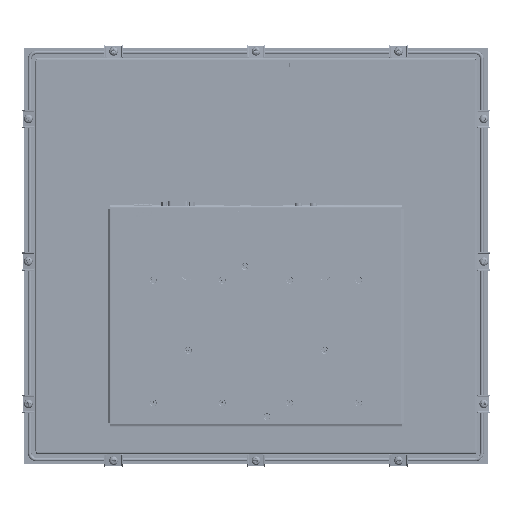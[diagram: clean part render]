
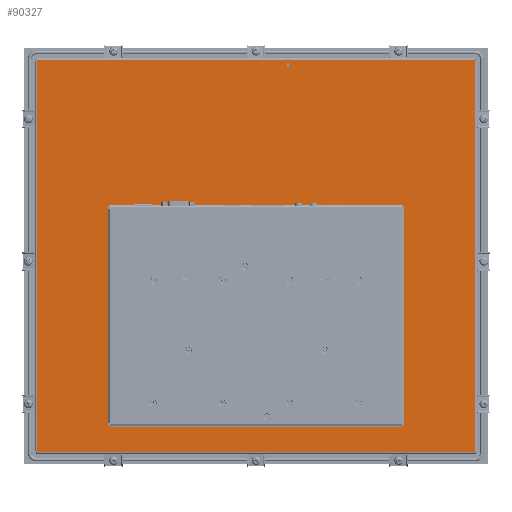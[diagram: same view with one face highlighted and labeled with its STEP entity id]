
A CAD part, front view. The second image highlights one B-rep face of the part: STEP entity #90327.
In plain terms, the highlighted planar face has unit normal (0, -1, 0).
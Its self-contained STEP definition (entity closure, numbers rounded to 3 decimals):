
#224 = VERTEX_POINT ( 'NONE', #129439 ) ;
#718 = LINE ( 'NONE', #173799, #75658 ) ;
#2463 = ORIENTED_EDGE ( 'NONE', *, *, #101284, .T. ) ;
#4821 = DIRECTION ( 'NONE',  ( 0.707, 0., 0.707 ) ) ;
#4944 = ORIENTED_EDGE ( 'NONE', *, *, #129377, .T. ) ;
#8308 = CARTESIAN_POINT ( 'NONE',  ( 133.25, -15.75, 51.802 ) ) ;
#11032 = CARTESIAN_POINT ( 'NONE',  ( 199.95, -15.75, -173.898 ) ) ;
#14295 = LINE ( 'NONE', #209159, #32434 ) ;
#14508 = CARTESIAN_POINT ( 'NONE',  ( -199.95, -15.75, 4.952 ) ) ;
#18486 = EDGE_CURVE ( 'NONE', #111456, #90916, #14295, .T. ) ;
#18681 = ORIENTED_EDGE ( 'NONE', *, *, #148154, .T. ) ;
#25374 = ORIENTED_EDGE ( 'NONE', *, *, #137321, .T. ) ;
#26684 = CARTESIAN_POINT ( 'NONE',  ( -90.05, -15.75, 95.002 ) ) ;
#27466 = LINE ( 'NONE', #204285, #82384 ) ;
#29803 = LINE ( 'NONE', #127943, #79583 ) ;
#30026 = DIRECTION ( 'NONE',  ( 0., 0., 1. ) ) ;
#30102 = DIRECTION ( 'NONE',  ( 1., 0., 0. ) ) ;
#32434 = VECTOR ( 'NONE', #111090, 1000. ) ;
#34919 = DIRECTION ( 'NONE',  ( -1., 0., 0. ) ) ;
#35944 = LINE ( 'NONE', #54068, #60280 ) ;
#36057 = CARTESIAN_POINT ( 'NONE',  ( 199.95, -15.75, 183.802 ) ) ;
#36236 = VERTEX_POINT ( 'NONE', #187675 ) ;
#36349 = DIRECTION ( 'NONE',  ( 0., 0., -1. ) ) ;
#36506 = ORIENTED_EDGE ( 'NONE', *, *, #86494, .T. ) ;
#38928 = LINE ( 'NONE', #14508, #100298 ) ;
#43184 = CARTESIAN_POINT ( 'NONE',  ( 0., -15.75, -173.898 ) ) ;
#43814 = VERTEX_POINT ( 'NONE', #101053 ) ;
#47361 = ORIENTED_EDGE ( 'NONE', *, *, #197211, .T. ) ;
#50394 = VERTEX_POINT ( 'NONE', #135884 ) ;
#54068 = CARTESIAN_POINT ( 'NONE',  ( 199.95, -15.75, 4.952 ) ) ;
#54145 = VERTEX_POINT ( 'NONE', #156999 ) ;
#57334 = ORIENTED_EDGE ( 'NONE', *, *, #103532, .T. ) ;
#60280 = VECTOR ( 'NONE', #210243, 1000. ) ;
#60699 = LINE ( 'NONE', #139434, #243260 ) ;
#69072 = CARTESIAN_POINT ( 'NONE',  ( -135.25, -15.75, -148.698 ) ) ;
#69308 = LINE ( 'NONE', #26684, #102099 ) ;
#71383 = VERTEX_POINT ( 'NONE', #36057 ) ;
#71954 = EDGE_CURVE ( 'NONE', #71383, #207713, #231622, .T. ) ;
#75658 = VECTOR ( 'NONE', #194400, 1000. ) ;
#76180 = VERTEX_POINT ( 'NONE', #136873 ) ;
#79376 = ORIENTED_EDGE ( 'NONE', *, *, #165575, .T. ) ;
#79583 = VECTOR ( 'NONE', #225986, 1000. ) ;
#82384 = VECTOR ( 'NONE', #30026, 1000. ) ;
#86494 = EDGE_CURVE ( 'NONE', #224, #76180, #38928, .T. ) ;
#90327 = ADVANCED_FACE ( 'NONE', ( #160462, #239019 ), #141061, .F. ) ;
#90916 = VERTEX_POINT ( 'NONE', #169981 ) ;
#96977 = VECTOR ( 'NONE', #236189, 1000. ) ;
#100298 = VECTOR ( 'NONE', #36349, 1000. ) ;
#100526 = LINE ( 'NONE', #123704, #214076 ) ;
#101053 = CARTESIAN_POINT ( 'NONE',  ( 135.25, -15.75, 49.802 ) ) ;
#101284 = EDGE_CURVE ( 'NONE', #133153, #54145, #222175, .T. ) ;
#102099 = VECTOR ( 'NONE', #4821, 1000. ) ;
#103532 = EDGE_CURVE ( 'NONE', #76180, #229104, #219946, .T. ) ;
#105083 = DIRECTION ( 'NONE',  ( 1., 0., 0. ) ) ;
#110990 = CARTESIAN_POINT ( 'NONE',  ( 199.95, -15.75, -172.927 ) ) ;
#111090 = DIRECTION ( 'NONE',  ( 0., 0., 1. ) ) ;
#111456 = VERTEX_POINT ( 'NONE', #69072 ) ;
#115525 = CARTESIAN_POINT ( 'NONE',  ( 0., -15.75, 183.802 ) ) ;
#118436 = VECTOR ( 'NONE', #165456, 1000. ) ;
#120000 = DIRECTION ( 'NONE',  ( 0., 0., -1. ) ) ;
#122327 = VERTEX_POINT ( 'NONE', #8308 ) ;
#123704 = CARTESIAN_POINT ( 'NONE',  ( 144.45, -15.75, -139.498 ) ) ;
#124982 = DIRECTION ( 'NONE',  ( -0.707, 0., -0.707 ) ) ;
#127943 = CARTESIAN_POINT ( 'NONE',  ( -144.45, -15.75, -139.498 ) ) ;
#129377 = EDGE_CURVE ( 'NONE', #162784, #111456, #29803, .T. ) ;
#129439 = CARTESIAN_POINT ( 'NONE',  ( -199.95, -15.75, -172.927 ) ) ;
#131078 = DIRECTION ( 'NONE',  ( -1., 0., 0. ) ) ;
#133153 = VERTEX_POINT ( 'NONE', #110990 ) ;
#135448 = VERTEX_POINT ( 'NONE', #252716 ) ;
#135884 = CARTESIAN_POINT ( 'NONE',  ( 133.25, -15.75, -150.698 ) ) ;
#136353 = AXIS2_PLACEMENT_3D ( 'NONE', #186015, #209196, #34919 ) ;
#136873 = CARTESIAN_POINT ( 'NONE',  ( -199.95, -15.75, -173.898 ) ) ;
#137321 = EDGE_CURVE ( 'NONE', #50394, #162784, #176561, .T. ) ;
#139434 = CARTESIAN_POINT ( 'NONE',  ( -199.95, -15.75, 4.952 ) ) ;
#141061 = PLANE ( 'NONE',  #136353 ) ;
#143615 = ORIENTED_EDGE ( 'NONE', *, *, #18486, .T. ) ;
#145617 = DIRECTION ( 'NONE',  ( 0.707, 0., -0.707 ) ) ;
#147542 = EDGE_LOOP ( 'NONE', ( #57334, #253094, #2463, #181327, #169928, #79376, #192721, #36506 ) ) ;
#148154 = EDGE_CURVE ( 'NONE', #135448, #122327, #172076, .T. ) ;
#148206 = VECTOR ( 'NONE', #145617, 1000. ) ;
#150999 = CARTESIAN_POINT ( 'NONE',  ( -199.95, -15.75, 183.802 ) ) ;
#152363 = ORIENTED_EDGE ( 'NONE', *, *, #212569, .T. ) ;
#153804 = LINE ( 'NONE', #156358, #96977 ) ;
#156358 = CARTESIAN_POINT ( 'NONE',  ( -199.95, -15.75, 4.952 ) ) ;
#156999 = CARTESIAN_POINT ( 'NONE',  ( 199.95, -15.75, 182.831 ) ) ;
#159843 = CARTESIAN_POINT ( 'NONE',  ( -199.95, -15.75, 182.831 ) ) ;
#160462 = FACE_OUTER_BOUND ( 'NONE', #147542, .T. ) ;
#160577 = ORIENTED_EDGE ( 'NONE', *, *, #203255, .T. ) ;
#162784 = VERTEX_POINT ( 'NONE', #165484 ) ;
#165456 = DIRECTION ( 'NONE',  ( 0., 0., 1. ) ) ;
#165484 = CARTESIAN_POINT ( 'NONE',  ( -133.25, -15.75, -150.698 ) ) ;
#165575 = EDGE_CURVE ( 'NONE', #207713, #226304, #60699, .T. ) ;
#166533 = VECTOR ( 'NONE', #30102, 1000. ) ;
#168312 = ORIENTED_EDGE ( 'NONE', *, *, #245310, .T. ) ;
#169928 = ORIENTED_EDGE ( 'NONE', *, *, #71954, .T. ) ;
#169981 = CARTESIAN_POINT ( 'NONE',  ( -135.25, -15.75, 49.802 ) ) ;
#172076 = LINE ( 'NONE', #190107, #166533 ) ;
#173510 = VECTOR ( 'NONE', #105083, 1000. ) ;
#173799 = CARTESIAN_POINT ( 'NONE',  ( 135.25, -15.75, -150.698 ) ) ;
#176561 = LINE ( 'NONE', #217792, #193455 ) ;
#178177 = EDGE_CURVE ( 'NONE', #229104, #133153, #35944, .T. ) ;
#179069 = DIRECTION ( 'NONE',  ( -1., 0., 0. ) ) ;
#181327 = ORIENTED_EDGE ( 'NONE', *, *, #212841, .T. ) ;
#184136 = EDGE_LOOP ( 'NONE', ( #18681, #160577, #47361, #152363, #25374, #4944, #143615, #168312 ) ) ;
#184224 = LINE ( 'NONE', #189310, #148206 ) ;
#186015 = CARTESIAN_POINT ( 'NONE',  ( 0., -15.75, 4.952 ) ) ;
#187675 = CARTESIAN_POINT ( 'NONE',  ( 135.25, -15.75, -148.698 ) ) ;
#189310 = CARTESIAN_POINT ( 'NONE',  ( 90.05, -15.75, 95.002 ) ) ;
#189812 = VECTOR ( 'NONE', #131078, 1000. ) ;
#190107 = CARTESIAN_POINT ( 'NONE',  ( -135.25, -15.75, 51.802 ) ) ;
#192721 = ORIENTED_EDGE ( 'NONE', *, *, #227285, .T. ) ;
#193455 = VECTOR ( 'NONE', #179069, 1000. ) ;
#194400 = DIRECTION ( 'NONE',  ( 0., 0., -1. ) ) ;
#197211 = EDGE_CURVE ( 'NONE', #43814, #36236, #718, .T. ) ;
#202814 = CARTESIAN_POINT ( 'NONE',  ( 199.95, -15.75, 4.952 ) ) ;
#203255 = EDGE_CURVE ( 'NONE', #122327, #43814, #184224, .T. ) ;
#204285 = CARTESIAN_POINT ( 'NONE',  ( 199.95, -15.75, 4.952 ) ) ;
#207713 = VERTEX_POINT ( 'NONE', #150999 ) ;
#209159 = CARTESIAN_POINT ( 'NONE',  ( -135.25, -15.75, -150.698 ) ) ;
#209196 = DIRECTION ( 'NONE',  ( 0., 1., 0. ) ) ;
#210243 = DIRECTION ( 'NONE',  ( 0., 0., 1. ) ) ;
#212569 = EDGE_CURVE ( 'NONE', #36236, #50394, #100526, .T. ) ;
#212841 = EDGE_CURVE ( 'NONE', #54145, #71383, #27466, .T. ) ;
#214076 = VECTOR ( 'NONE', #124982, 1000. ) ;
#217792 = CARTESIAN_POINT ( 'NONE',  ( -135.25, -15.75, -150.698 ) ) ;
#219946 = LINE ( 'NONE', #43184, #173510 ) ;
#222175 = LINE ( 'NONE', #202814, #118436 ) ;
#225986 = DIRECTION ( 'NONE',  ( -0.707, 0., 0.707 ) ) ;
#226304 = VERTEX_POINT ( 'NONE', #159843 ) ;
#227285 = EDGE_CURVE ( 'NONE', #226304, #224, #153804, .T. ) ;
#229104 = VERTEX_POINT ( 'NONE', #11032 ) ;
#231622 = LINE ( 'NONE', #115525, #189812 ) ;
#236189 = DIRECTION ( 'NONE',  ( 0., 0., -1. ) ) ;
#239019 = FACE_BOUND ( 'NONE', #184136, .T. ) ;
#243260 = VECTOR ( 'NONE', #120000, 1000. ) ;
#245310 = EDGE_CURVE ( 'NONE', #90916, #135448, #69308, .T. ) ;
#252716 = CARTESIAN_POINT ( 'NONE',  ( -133.25, -15.75, 51.802 ) ) ;
#253094 = ORIENTED_EDGE ( 'NONE', *, *, #178177, .T. ) ;
